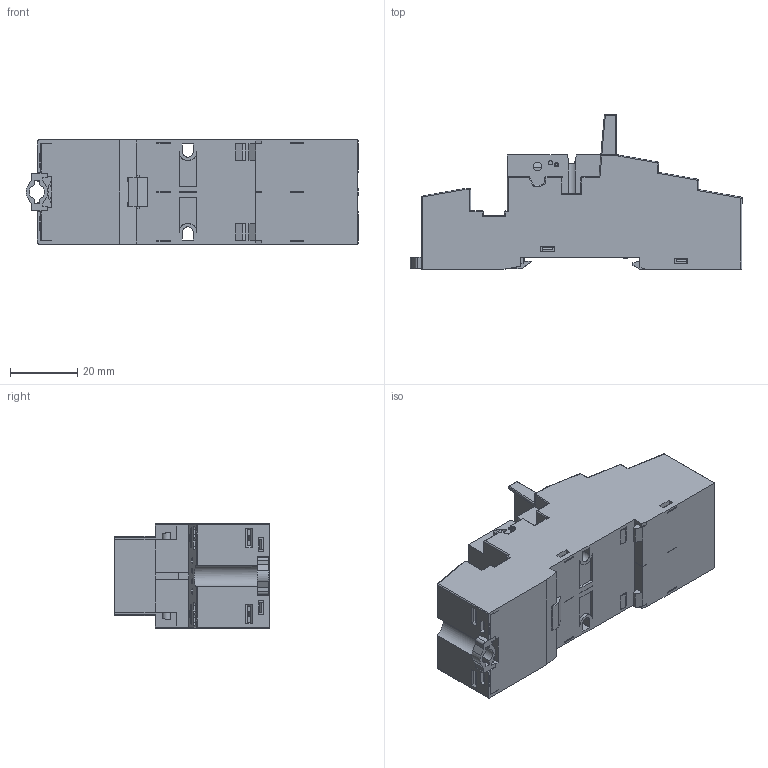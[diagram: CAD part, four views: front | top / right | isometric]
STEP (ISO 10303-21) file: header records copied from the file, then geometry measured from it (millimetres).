
FILE_DESCRIPTION(/* description */ (''),/* implementation_level */ '2;1');
FILE_NAME(/* name */ 'C:\Desktop\FIERA\94.P4\94.P4.stp',/* time_stamp */ '2015-03-06T12:02:19+01:00',/* author */ ('marco'),/* organization */ (''),/* preprocessor_version */ 'ST-DEVELOPER v15.6',/* originating_system */ 'Autodesk Inventor 2015',/* authorisation */ '');
FILE_SCHEMA (('AUTOMOTIVE_DESIGN { 1 0 10303 214 3 1 1 }'));
Products named in the file (1): Assieme 94.P4
Bounding box: 98.9 x 46 x 31 mm (x, y, z)
Volume: 62809.7 mm3; surface area: 37497.9 mm2
Topology: 2 solids, 5 shells, 4309 faces, 11707 edges, 7431 vertices
Faces by surface type: plane 3216, cylinder 799, torus 120, cone 114, bspline 30, sphere 30
Full cylindrical faces by diameter (mm): 1.2 x4, 2.2 x14, 2.5 x2
Entity records: 139010 total; most frequent: CARTESIAN_POINT 25120, ORIENTED_EDGE 23374, DIRECTION 21815, EDGE_CURVE 11680, LINE 9701, VECTOR 9701, VERTEX_POINT 7427, AXIS2_PLACEMENT_3D 6057
